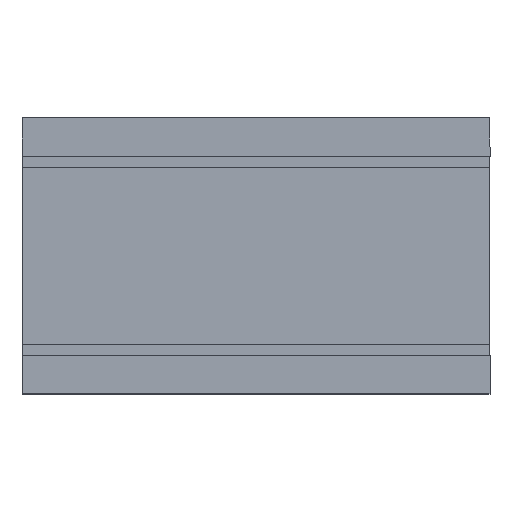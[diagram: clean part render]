
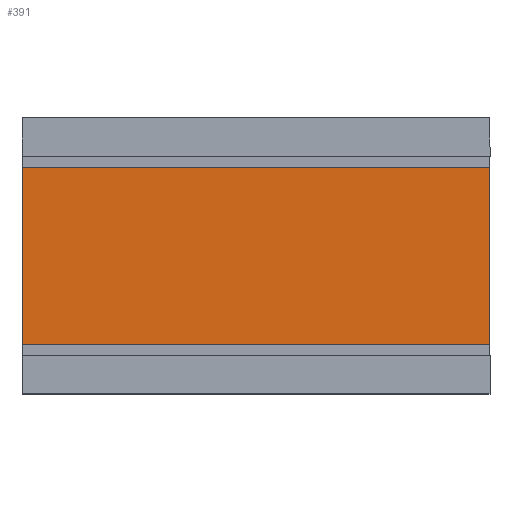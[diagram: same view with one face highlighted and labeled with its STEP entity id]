
A CAD part, top view. The second image highlights one B-rep face of the part: STEP entity #391.
In plain terms, the highlighted planar face has unit normal (0, 0, 1).
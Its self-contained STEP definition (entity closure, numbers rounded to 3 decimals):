
#192=CARTESIAN_POINT('',(0.0,242.142,0.));
#193=VERTEX_POINT('',#192);
#202=CARTESIAN_POINT('',(500.0,242.142,0.));
#203=VERTEX_POINT('',#202);
#204=CARTESIAN_POINT('',(500.0,242.142,0.));
#205=DIRECTION('',(-1.0,0.0,0.0));
#206=VECTOR('',#205,500.0);
#207=LINE('',#204,#206);
#208=EDGE_CURVE('',#203,#193,#207,.T.);
#234=CARTESIAN_POINT('',(0.0,52.858,0.));
#235=VERTEX_POINT('',#234);
#250=CARTESIAN_POINT('',(500.0,52.858,0.));
#251=VERTEX_POINT('',#250);
#258=CARTESIAN_POINT('',(0.0,52.858,0.0));
#259=DIRECTION('',(1.0,0.0,0.0));
#260=VECTOR('',#259,500.0);
#261=LINE('',#258,#260);
#262=EDGE_CURVE('',#235,#251,#261,.T.);
#311=CARTESIAN_POINT('',(0.0,242.142,0.0));
#312=DIRECTION('',(0.0,-1.0,0.0));
#313=VECTOR('',#312,189.285);
#314=LINE('',#311,#313);
#315=EDGE_CURVE('',#193,#235,#314,.T.);
#375=CARTESIAN_POINT('',(0.0,0.0,0.0));
#376=DIRECTION('',(0.0,0.0,1.0));
#377=DIRECTION('',(1.0,0.0,0.0));
#378=AXIS2_PLACEMENT_3D('',#375,#376,#377);
#379=PLANE('',#378);
#380=ORIENTED_EDGE('',*,*,#208,.T.);
#381=ORIENTED_EDGE('',*,*,#315,.T.);
#382=ORIENTED_EDGE('',*,*,#262,.T.);
#383=CARTESIAN_POINT('',(500.0,52.858,0.));
#384=DIRECTION('',(0.0,1.0,0.0));
#385=VECTOR('',#384,189.285);
#386=LINE('',#383,#385);
#387=EDGE_CURVE('',#251,#203,#386,.T.);
#388=ORIENTED_EDGE('',*,*,#387,.T.);
#389=EDGE_LOOP('',(#380,#381,#382,#388));
#390=FACE_OUTER_BOUND('',#389,.T.);
#391=ADVANCED_FACE('',(#390),#379,.T.);
